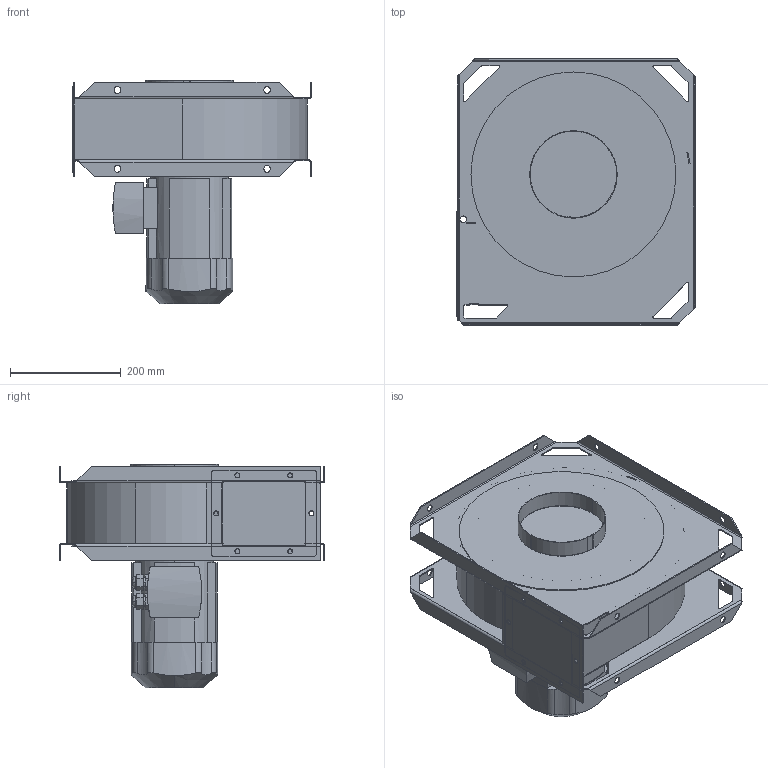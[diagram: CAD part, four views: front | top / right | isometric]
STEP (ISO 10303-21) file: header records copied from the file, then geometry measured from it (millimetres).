
FILE_DESCRIPTION((''),'2;1');
FILE_NAME('FTE_075-3_LG90','2022-10-13T14:50:41',('Tomas Bellgran'),(''),'CREO PARAMETRIC BY PTC INC, 2018260','CREO PARAMETRIC BY PTC INC, 2018260','');
FILE_SCHEMA(('AUTOMOTIVE_DESIGN { 1 0 10303 214 1 1 1 1 }'));
Length unit declared in the file: millimetre
Products named in the file (12): 116744; 116741; 116742; 116743; 115887; 116761; 116764; 116763; 4A3_80M_B5_L; 120065; 116971; FTE_075-3_LG90
Assembly tree (11 placements, depth 3):
  FTE_075-3_LG90
    116743
      116744
      116741
      116742
    115887
    116763
      116761
      116764
    120065
      4A3_80M_B5_L
    116971
Bounding box: 430.8 x 480 x 404 mm (x, y, z)
Volume: 6784672.5 mm3; surface area: 1727816.6 mm2
Topology: 9 solids, 9 shells, 519 faces, 1328 edges, 840 vertices
Faces by surface type: plane 305, cylinder 184, bspline 24, cone 6
Entity records: 25371 total; most frequent: CARTESIAN_POINT 4273, ORIENTED_EDGE 2656, DIRECTION 2652, PRESENTATION_STYLE_ASSIGNMENT 1856, STYLED_ITEM 1856, CURVE_STYLE 1328, EDGE_CURVE 1328, VECTOR 900
